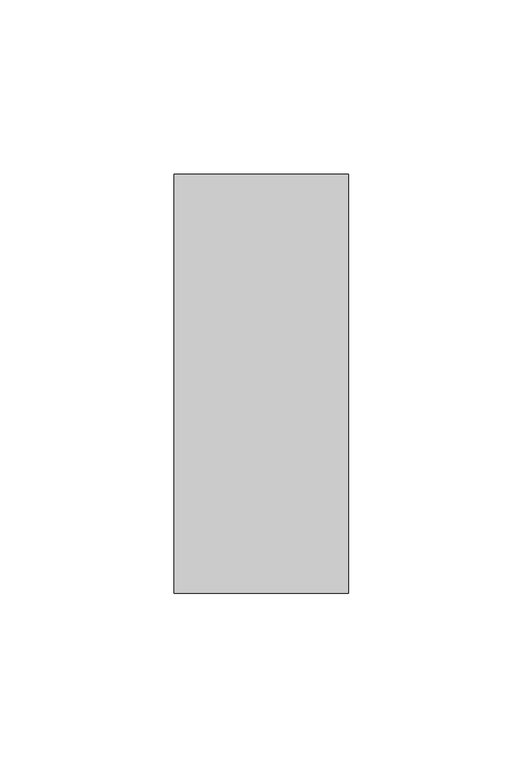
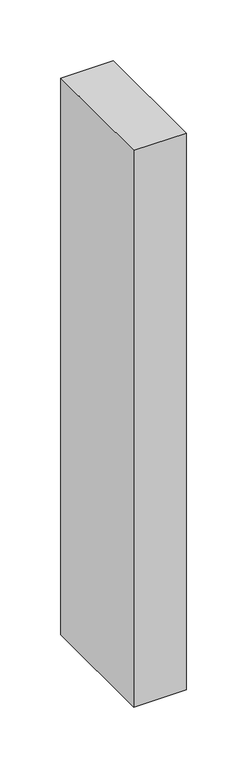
"""IFC4 building model written with IfcOpenShell, lengths in millimetres: member geometry, Прямоугольный импост : 50х120 мм."""

from ifc_helpers import new_model, si_unit, frame, origin, place, context, project, spatial, polyline, outline, extrude, source, transform, mapped, element, save


def member_f5f8aabc(model_context):
    return source(origin(), model_context, "Body", "SweptSolid", [
        extrude(outline(polyline([(0.0, 60.0), (0.0, -60.0), (-50.0, -60.0), (-50.0, 60.0), (0.0, 60.0)])), frame((0.0, 0.0, -560.0), z_axis=(0.0, 0.0, 1.0), x_axis=(1.0, 0.0, 0.0)), (0.0, 0.0, 1.0), 560.0),
    ])


if __name__ == "__main__":
    model = new_model("IFC4")
    model_context = context("Model", 3, world=origin())
    ifc_project = project(units=[si_unit("LENGTHUNIT", "METRE", prefix="MILLI")], contexts=[model_context])
    site = spatial("IfcSite", under=ifc_project)
    building = spatial("IfcBuilding", under=site)
    placement = place(None, origin())
    member_shape = member_f5f8aabc(model_context)
    element("IfcMember", 1, ObjectType="Прямоугольный импост : 50х120 мм", at=placement, inside=building, context=model_context, shape_type="MappedRepresentation", body=[
        mapped(member_shape, transform((0.0, 0.0, 0.0), x_axis=(1.0, 0.0, 0.0), y_axis=(0.0, 1.0, 0.0), z_axis=(0.0, 0.0, 1.0))),
    ])
    save(model, "model.ifc")
